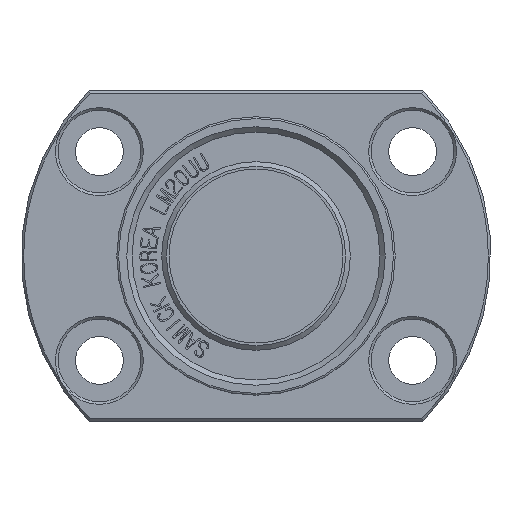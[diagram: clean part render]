
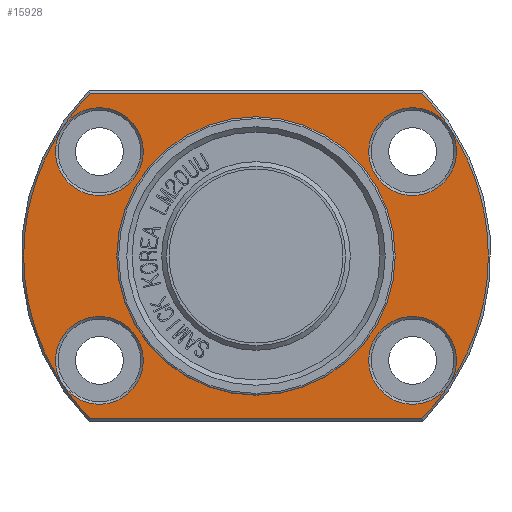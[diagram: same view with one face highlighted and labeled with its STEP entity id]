
A CAD part, front view. The second image highlights one B-rep face of the part: STEP entity #15928.
In plain terms, the highlighted planar face has unit normal (0, -1, 0).
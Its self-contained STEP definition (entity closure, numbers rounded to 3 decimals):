
#2613=FACE_BOUND('',#3773,.T.);
#2614=FACE_BOUND('',#3774,.T.);
#2615=FACE_BOUND('',#3775,.T.);
#2616=FACE_BOUND('',#3776,.T.);
#2617=FACE_BOUND('',#3777,.T.);
#2677=PLANE('',#16811);
#2912=FACE_OUTER_BOUND('',#3772,.T.);
#3772=EDGE_LOOP('',(#11088,#11089,#11090,#11091));
#3773=EDGE_LOOP('',(#11092));
#3774=EDGE_LOOP('',(#11093));
#3775=EDGE_LOOP('',(#11094,#11095));
#3776=EDGE_LOOP('',(#11096));
#3777=EDGE_LOOP('',(#11097));
#4696=LINE('',#19011,#5836);
#4697=LINE('',#19015,#5837);
#5836=VECTOR('',#17170,10.);
#5837=VECTOR('',#17173,10.);
#6975=CIRCLE('',#16808,5.05);
#6978=CIRCLE('',#16812,26.7);
#6979=CIRCLE('',#16813,26.7);
#6980=CIRCLE('',#16814,5.05);
#6981=CIRCLE('',#16815,5.05);
#6982=CIRCLE('',#16816,16.);
#6983=CIRCLE('',#16817,16.);
#6984=CIRCLE('',#16818,5.05);
#7057=VERTEX_POINT('',#19001);
#7060=VERTEX_POINT('',#19009);
#7061=VERTEX_POINT('',#19010);
#7062=VERTEX_POINT('',#19012);
#7063=VERTEX_POINT('',#19014);
#7064=VERTEX_POINT('',#19017);
#7065=VERTEX_POINT('',#19019);
#7066=VERTEX_POINT('',#19021);
#7067=VERTEX_POINT('',#19022);
#7068=VERTEX_POINT('',#19025);
#8669=EDGE_CURVE('',#7057,#7057,#6975,.T.);
#8673=EDGE_CURVE('',#7060,#7061,#4696,.T.);
#8674=EDGE_CURVE('',#7060,#7062,#6978,.T.);
#8675=EDGE_CURVE('',#7063,#7062,#4697,.T.);
#8676=EDGE_CURVE('',#7063,#7061,#6979,.T.);
#8677=EDGE_CURVE('',#7064,#7064,#6980,.T.);
#8678=EDGE_CURVE('',#7065,#7065,#6981,.T.);
#8679=EDGE_CURVE('',#7066,#7067,#6982,.T.);
#8680=EDGE_CURVE('',#7067,#7066,#6983,.T.);
#8681=EDGE_CURVE('',#7068,#7068,#6984,.T.);
#11088=ORIENTED_EDGE('',*,*,#8673,.F.);
#11089=ORIENTED_EDGE('',*,*,#8674,.T.);
#11090=ORIENTED_EDGE('',*,*,#8675,.F.);
#11091=ORIENTED_EDGE('',*,*,#8676,.T.);
#11092=ORIENTED_EDGE('',*,*,#8677,.F.);
#11093=ORIENTED_EDGE('',*,*,#8678,.F.);
#11094=ORIENTED_EDGE('',*,*,#8679,.F.);
#11095=ORIENTED_EDGE('',*,*,#8680,.F.);
#11096=ORIENTED_EDGE('',*,*,#8681,.F.);
#11097=ORIENTED_EDGE('',*,*,#8669,.F.);
#15928=ADVANCED_FACE('',(#2912,#2613,#2614,#2615,#2616,#2617),#2677,.T.);
#16808=AXIS2_PLACEMENT_3D('',#19002,#17161,#17162);
#16811=AXIS2_PLACEMENT_3D('',#19008,#17168,#17169);
#16812=AXIS2_PLACEMENT_3D('',#19013,#17171,#17172);
#16813=AXIS2_PLACEMENT_3D('',#19016,#17174,#17175);
#16814=AXIS2_PLACEMENT_3D('',#19018,#17176,#17177);
#16815=AXIS2_PLACEMENT_3D('',#19020,#17178,#17179);
#16816=AXIS2_PLACEMENT_3D('',#19023,#17180,#17181);
#16817=AXIS2_PLACEMENT_3D('',#19024,#17182,#17183);
#16818=AXIS2_PLACEMENT_3D('',#19026,#17184,#17185);
#17161=DIRECTION('center_axis',(0.,-1.,0.));
#17162=DIRECTION('ref_axis',(-1.,0.,0.));
#17168=DIRECTION('center_axis',(0.,-1.,0.));
#17169=DIRECTION('ref_axis',(0.,0.,-1.));
#17170=DIRECTION('',(-1.,0.,0.));
#17171=DIRECTION('center_axis',(0.,-1.,0.));
#17172=DIRECTION('ref_axis',(1.,0.,0.));
#17173=DIRECTION('',(1.,0.,0.));
#17174=DIRECTION('center_axis',(0.,-1.,0.));
#17175=DIRECTION('ref_axis',(1.,0.,0.));
#17176=DIRECTION('center_axis',(0.,-1.,0.));
#17177=DIRECTION('ref_axis',(-1.,0.,0.));
#17178=DIRECTION('center_axis',(0.,-1.,0.));
#17179=DIRECTION('ref_axis',(-1.,0.,0.));
#17180=DIRECTION('center_axis',(0.,-1.,0.));
#17181=DIRECTION('ref_axis',(1.,0.,0.));
#17182=DIRECTION('center_axis',(0.,-1.,0.));
#17183=DIRECTION('ref_axis',(1.,0.,0.));
#17184=DIRECTION('center_axis',(0.,-1.,0.));
#17185=DIRECTION('ref_axis',(-1.,0.,0.));
#19001=CARTESIAN_POINT('',(-12.95,-21.,-12.));
#19002=CARTESIAN_POINT('Origin',(-18.,-21.,-12.));
#19008=CARTESIAN_POINT('Origin',(21.35,-21.,0.));
#19009=CARTESIAN_POINT('',(19.058,-21.,-18.7));
#19010=CARTESIAN_POINT('',(-19.058,-21.,-18.7));
#19011=CARTESIAN_POINT('',(25.175,-21.,-18.7));
#19012=CARTESIAN_POINT('',(19.058,-21.,18.7));
#19013=CARTESIAN_POINT('Origin',(0.,-21.,0.));
#19014=CARTESIAN_POINT('',(-19.058,-21.,18.7));
#19015=CARTESIAN_POINT('',(-3.825,-21.,18.7));
#19016=CARTESIAN_POINT('Origin',(0.,-21.,0.));
#19017=CARTESIAN_POINT('',(-12.95,-21.,12.));
#19018=CARTESIAN_POINT('Origin',(-18.,-21.,12.));
#19019=CARTESIAN_POINT('',(23.05,-21.,12.));
#19020=CARTESIAN_POINT('Origin',(18.,-21.,12.));
#19021=CARTESIAN_POINT('',(16.,-21.,0.));
#19022=CARTESIAN_POINT('',(-16.,-21.,0.));
#19023=CARTESIAN_POINT('Origin',(0.,-21.,0.));
#19024=CARTESIAN_POINT('Origin',(0.,-21.,0.));
#19025=CARTESIAN_POINT('',(23.05,-21.,-12.));
#19026=CARTESIAN_POINT('Origin',(18.,-21.,-12.));
